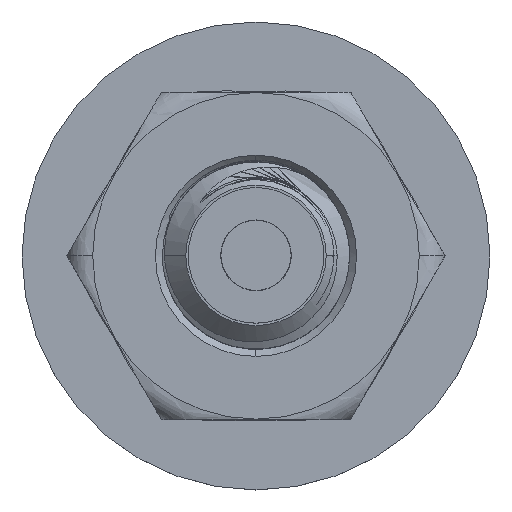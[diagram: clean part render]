
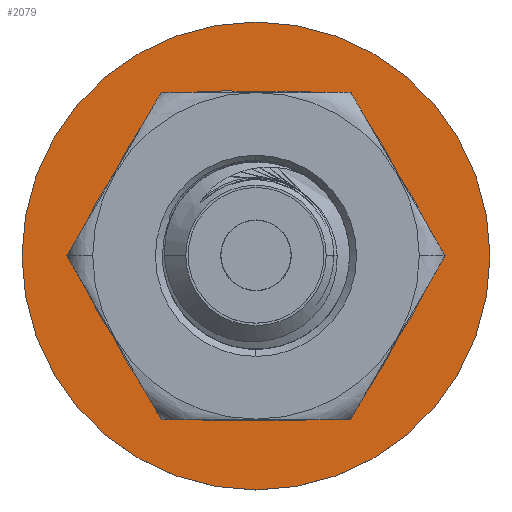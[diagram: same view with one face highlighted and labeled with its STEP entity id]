
A CAD part, top view. The second image highlights one B-rep face of the part: STEP entity #2079.
In plain terms, the highlighted planar face has unit normal (0, 0, 1).
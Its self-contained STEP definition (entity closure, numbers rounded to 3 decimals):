
#31 = ORIENTED_EDGE ( 'NONE', *, *, #3838, .F. ) ;
#165 = DIRECTION ( 'NONE',  ( 1., 0., 0. ) ) ;
#202 = CARTESIAN_POINT ( 'NONE',  ( 0., 0., 0.5 ) ) ;
#204 = CIRCLE ( 'NONE', #5047, 2.25 ) ;
#441 = AXIS2_PLACEMENT_3D ( 'NONE', #202, #759, #165 ) ;
#452 = DIRECTION ( 'NONE',  ( 0., 0., 1. ) ) ;
#633 = AXIS2_PLACEMENT_3D ( 'NONE', #3164, #6364, #4115 ) ;
#759 = DIRECTION ( 'NONE',  ( 0., 0., 1. ) ) ;
#885 = DIRECTION ( 'NONE',  ( 0., 0., 1. ) ) ;
#1022 = EDGE_LOOP ( 'NONE', ( #5480, #1361 ) ) ;
#1361 = ORIENTED_EDGE ( 'NONE', *, *, #3975, .T. ) ;
#1570 = CARTESIAN_POINT ( 'NONE',  ( 0., 0., 0.5 ) ) ;
#1594 = EDGE_CURVE ( 'NONE', #3583, #5396, #2210, .T. ) ;
#2079 = ADVANCED_FACE ( 'NONE', ( #5215, #4147 ), #6284, .T. ) ;
#2210 = CIRCLE ( 'NONE', #633, 2.25 ) ;
#2437 = CIRCLE ( 'NONE', #5498, 5. ) ;
#2523 = CARTESIAN_POINT ( 'NONE',  ( 0., 0., 0.5 ) ) ;
#2656 = ORIENTED_EDGE ( 'NONE', *, *, #1594, .F. ) ;
#2703 = VERTEX_POINT ( 'NONE', #3667 ) ;
#2804 = CARTESIAN_POINT ( 'NONE',  ( 5., 0., 0.5 ) ) ;
#3011 = CIRCLE ( 'NONE', #441, 5. ) ;
#3016 = EDGE_CURVE ( 'NONE', #2703, #4162, #2437, .T. ) ;
#3076 = DIRECTION ( 'NONE',  ( 1., 0., 0. ) ) ;
#3164 = CARTESIAN_POINT ( 'NONE',  ( 0., 0., 0.5 ) ) ;
#3583 = VERTEX_POINT ( 'NONE', #3995 ) ;
#3667 = CARTESIAN_POINT ( 'NONE',  ( -5., 0., 0.5 ) ) ;
#3838 = EDGE_CURVE ( 'NONE', #5396, #3583, #204, .T. ) ;
#3975 = EDGE_CURVE ( 'NONE', #4162, #2703, #3011, .T. ) ;
#3995 = CARTESIAN_POINT ( 'NONE',  ( -2.25, 0., 0.5 ) ) ;
#4115 = DIRECTION ( 'NONE',  ( 1., 0., 0. ) ) ;
#4147 = FACE_BOUND ( 'NONE', #5977, .T. ) ;
#4162 = VERTEX_POINT ( 'NONE', #2804 ) ;
#4591 = CARTESIAN_POINT ( 'NONE',  ( 0., 0., 0.5 ) ) ;
#5047 = AXIS2_PLACEMENT_3D ( 'NONE', #1570, #6428, #5904 ) ;
#5215 = FACE_OUTER_BOUND ( 'NONE', #1022, .T. ) ;
#5334 = CARTESIAN_POINT ( 'NONE',  ( 2.25, 0., 0.5 ) ) ;
#5396 = VERTEX_POINT ( 'NONE', #5334 ) ;
#5480 = ORIENTED_EDGE ( 'NONE', *, *, #3016, .T. ) ;
#5498 = AXIS2_PLACEMENT_3D ( 'NONE', #4591, #885, #6310 ) ;
#5606 = AXIS2_PLACEMENT_3D ( 'NONE', #2523, #452, #3076 ) ;
#5904 = DIRECTION ( 'NONE',  ( 1., 0., 0. ) ) ;
#5977 = EDGE_LOOP ( 'NONE', ( #2656, #31 ) ) ;
#6284 = PLANE ( 'NONE',  #5606 ) ;
#6310 = DIRECTION ( 'NONE',  ( 1., 0., 0. ) ) ;
#6364 = DIRECTION ( 'NONE',  ( 0., 0., 1. ) ) ;
#6428 = DIRECTION ( 'NONE',  ( 0., 0., 1. ) ) ;
